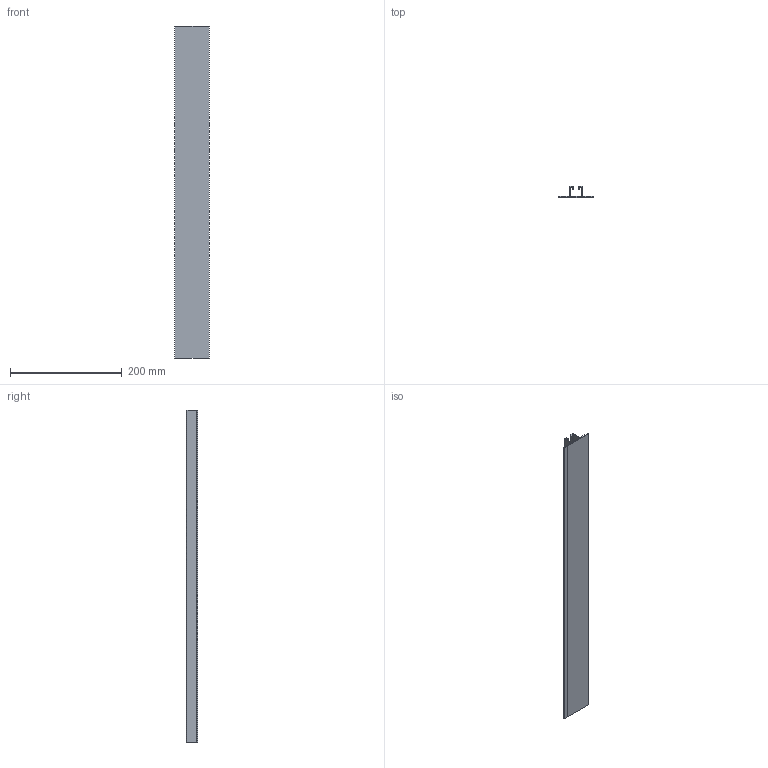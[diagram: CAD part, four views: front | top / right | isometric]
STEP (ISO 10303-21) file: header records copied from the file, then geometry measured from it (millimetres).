
FILE_DESCRIPTION (( 'STEP AP203' ), '1' );
FILE_NAME ('084.106.162.STEP', '2013-01-23T14:59:07', ( 'Alusic' ), ( 'Alusic' ), 'SwSTEP 2.0', 'SolidWorks 2011', '' );
FILE_SCHEMA (( 'CONFIG_CONTROL_DESIGN' ));
Length unit declared in the file: millimetre
Products named in the file (1): 084.106.162
Bounding box: 62 x 20 x 595 mm (x, y, z)
Volume: 122716.2 mm3; surface area: 134870.6 mm2
Topology: 1 solids, 1 shells, 44 faces, 126 edges, 84 vertices
Faces by surface type: plane 28, cylinder 16
Entity records: 1519 total; most frequent: CARTESIAN_POINT 255, ORIENTED_EDGE 252, DIRECTION 248, EDGE_CURVE 126, VECTOR 94, LINE 94, VERTEX_POINT 84, AXIS2_PLACEMENT_3D 77
